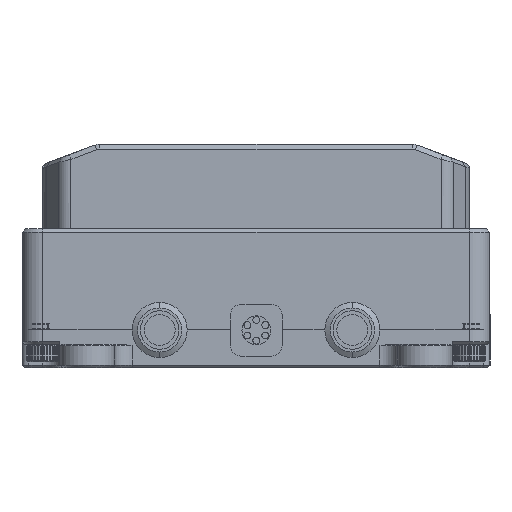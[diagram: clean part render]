
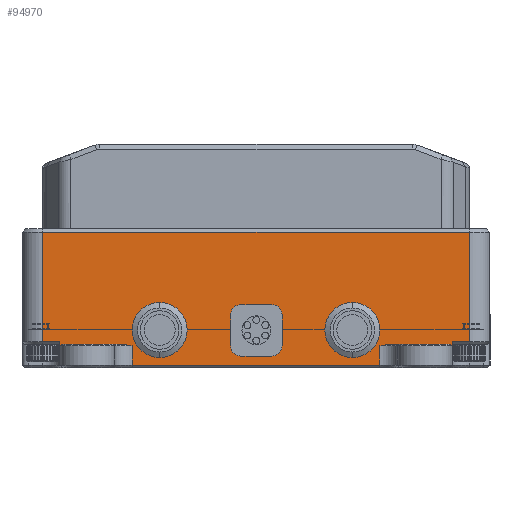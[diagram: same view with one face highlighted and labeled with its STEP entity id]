
A CAD part, left-side view. The second image highlights one B-rep face of the part: STEP entity #94970.
In plain terms, the highlighted planar face has unit normal (-1, 0, 0).
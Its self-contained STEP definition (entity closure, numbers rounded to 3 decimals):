
#753=DIRECTION('',(0.,0.,-1.));
#754=VECTOR('',#753,15.9);
#755=CARTESIAN_POINT('',(-66.5,31.,4.7));
#756=LINE('',#755,#754);
#783=DIRECTION('',(0.,-1.,0.));
#784=VECTOR('',#783,2.5);
#785=CARTESIAN_POINT('',(-66.5,-28.5,-11.2));
#786=LINE('',#785,#784);
#790=DIRECTION('',(0.,0.,-1.));
#791=VECTOR('',#790,0.6);
#792=CARTESIAN_POINT('',(-66.5,-28.5,-11.2));
#793=LINE('',#792,#791);
#797=DIRECTION('',(0.,0.,-1.));
#798=VECTOR('',#797,2.8);
#799=CARTESIAN_POINT('',(-66.5,-18.,-11.8));
#800=LINE('',#799,#798);
#804=DIRECTION('',(0.,1.,0.));
#805=VECTOR('',#804,36.);
#806=CARTESIAN_POINT('',(-66.5,-18.,
-14.6));
#807=LINE('',#806,#805);
#811=DIRECTION('',(0.,0.,1.));
#812=VECTOR('',#811,2.8);
#813=CARTESIAN_POINT('',(-66.5,18.,-14.6));
#814=LINE('',#813,#812);
#818=DIRECTION('',(0.,0.,1.));
#819=VECTOR('',#818,0.6);
#820=CARTESIAN_POINT('',(-66.5,28.5,-11.8));
#821=LINE('',#820,#819);
#825=DIRECTION('',(0.,1.,0.));
#826=VECTOR('',#825,2.5);
#827=CARTESIAN_POINT('',(-66.5,28.5,-11.2));
#828=LINE('',#827,#826);
#832=DIRECTION('',(0.,-1.,0.));
#833=VECTOR('',#832,62.);
#834=CARTESIAN_POINT('',(-66.5,31.,4.7));
#835=LINE('',#834,#833);
#839=CARTESIAN_POINT('',(-66.5,-14.,-9.5));
#840=DIRECTION('',(-1.,0.,0.));
#841=DIRECTION('',(0.,0.,1.));
#842=AXIS2_PLACEMENT_3D('',#839,#840,#841);
#847=CARTESIAN_POINT('',(-66.5,-14.,-9.5));
#848=DIRECTION('',(-1.,0.,0.));
#849=DIRECTION('',(0.,0.,-1.));
#850=AXIS2_PLACEMENT_3D('',#847,#848,#849);
#855=DIRECTION('',(0.,0.,-1.));
#856=VECTOR('',#855,3.);
#857=CARTESIAN_POINT('',(-66.5,3.05,-9.5));
#858=LINE('',#857,#856);
#862=DIRECTION('',(0.,-1.,0.));
#863=VECTOR('',#862,0.05);
#864=CARTESIAN_POINT('',(-66.5,3.05,-12.5));
#865=LINE('',#864,#863);
#869=DIRECTION('',(0.,0.,1.));
#870=VECTOR('',#869,6.);
#871=CARTESIAN_POINT('',(-66.5,-3.1,-12.5));
#872=LINE('',#871,#870);
#876=DIRECTION('',(0.,1.,0.));
#877=VECTOR('',#876,6.1);
#878=CARTESIAN_POINT('',(-66.5,-3.1,-6.5));
#879=LINE('',#878,#877);
#883=DIRECTION('',(0.,0.,1.));
#884=VECTOR('',#883,3.);
#885=CARTESIAN_POINT('',(-66.5,3.,-9.5));
#886=LINE('',#885,#884);
#890=CARTESIAN_POINT('',(-66.5,14.,-9.5));
#891=DIRECTION('',(-1.,0.,0.));
#892=DIRECTION('',(0.,0.,1.));
#893=AXIS2_PLACEMENT_3D('',#890,#891,#892);
#898=CARTESIAN_POINT('',(-66.5,14.,-9.5));
#899=DIRECTION('',(-1.,0.,0.));
#900=DIRECTION('',(0.,0.,-1.));
#901=AXIS2_PLACEMENT_3D('',#898,#899,#900);
#921=DIRECTION('',(0.,0.,1.));
#922=VECTOR('',#921,15.9);
#923=CARTESIAN_POINT('',(-66.5,-31.,
-11.2));
#924=LINE('',#923,#922);
#1538=CARTESIAN_POINT('',(-66.5,-19.02,-11.6));
#1551=DIRECTION('',(0.,-1.,0.));
#1552=VECTOR('',#1551,9.28);
#1553=CARTESIAN_POINT('',(-66.5,-19.02,-11.6));
#1554=LINE('',#1553,#1552);
#1565=DIRECTION('',(0.,-1.,0.));
#1566=VECTOR('',#1565,9.28);
#1567=CARTESIAN_POINT('',(-66.5,28.3,-11.6));
#1568=LINE('',#1567,#1566);
#3639=DIRECTION('',(0.,-0.707,0.707));
#3640=VECTOR('',#3639,0.283);
#3641=CARTESIAN_POINT('',(-66.5,28.5,-11.8));
#3642=LINE('',#3641,#3640);
#3707=CARTESIAN_POINT('',(-66.5,19.02,-11.6));
#3708=CARTESIAN_POINT('',(-66.5,18.839,-11.668));
#3709=CARTESIAN_POINT('',(-66.5,18.489,-11.769));
#3710=CARTESIAN_POINT('',(-66.5,18.159,-11.8));
#3711=CARTESIAN_POINT('',(-66.5,18.,-11.8));
#3777=CARTESIAN_POINT('',(-66.5,-18.,-11.8));
#3778=CARTESIAN_POINT('',(-66.5,-18.16,-11.8));
#3779=CARTESIAN_POINT('',(-66.5,-18.489,-11.769));
#3780=CARTESIAN_POINT('',(-66.5,-18.84,-11.668));
#3781=CARTESIAN_POINT('',(-66.5,-19.02,-11.6));
#3807=DIRECTION('',(0.,-0.707,-0.707));
#3808=VECTOR('',#3807,0.283);
#3809=CARTESIAN_POINT('',(-66.5,-28.3,-11.6));
#3810=LINE('',#3809,#3808);
#54102=DIRECTION('',(0.,-1.,0.));
#54103=VECTOR('',#54102,0.05);
#54104=CARTESIAN_POINT('',(-66.5,3.05,-9.5));
#54105=LINE('',#54104,#54103);
#55024=DIRECTION('',(0.,1.,0.));
#55025=VECTOR('',#55024,6.1);
#55026=CARTESIAN_POINT('',(-66.5,-3.1,-12.5));
#55027=LINE('',#55026,#55025);
#82808=CARTESIAN_POINT('',(-66.5,31.,4.7));
#82810=VERTEX_POINT('',#82808);
#82813=CARTESIAN_POINT('',(-66.5,-31.,
4.7));
#82814=VERTEX_POINT('',#82813);
#84983=CARTESIAN_POINT('',(-66.5,-14.,-6.));
#84984=VERTEX_POINT('',#84983);
#85037=CARTESIAN_POINT('',(-66.5,3.,-9.5));
#85039=VERTEX_POINT('',#85037);
#85041=CARTESIAN_POINT('',(-66.5,-3.1,-6.5));
#85042=CARTESIAN_POINT('',(-66.5,3.,-6.5));
#85043=VERTEX_POINT('',#85041);
#85044=VERTEX_POINT('',#85042);
#85091=CARTESIAN_POINT('',(-66.5,14.,-6.));
#85092=VERTEX_POINT('',#85091);
#87426=CARTESIAN_POINT('',(-66.5,-18.,
-14.6));
#87427=CARTESIAN_POINT('',(-66.5,18.,
-14.6));
#87428=VERTEX_POINT('',#87426);
#87429=VERTEX_POINT('',#87427);
#87696=CARTESIAN_POINT('',(-66.5,31.,-11.2));
#87697=VERTEX_POINT('',#87696);
#87698=CARTESIAN_POINT('',(-66.5,28.5,-11.2));
#87699=VERTEX_POINT('',#87698);
#87794=CARTESIAN_POINT('',(-66.5,-31.,-11.2));
#87795=VERTEX_POINT('',#87794);
#87798=CARTESIAN_POINT('',(-66.5,-28.5,-11.2));
#87799=VERTEX_POINT('',#87798);
#88323=CARTESIAN_POINT('',(-66.5,-28.5,-11.8));
#88325=VERTEX_POINT('',#88323);
#88327=CARTESIAN_POINT('',(-66.5,-28.3,-11.6));
#88329=VERTEX_POINT('',#88327);
#88338=VERTEX_POINT('',#1538);
#88339=CARTESIAN_POINT('',(-66.5,-18.,-11.8));
#88340=VERTEX_POINT('',#88339);
#88342=CARTESIAN_POINT('',(-66.5,28.3,-11.6));
#88344=VERTEX_POINT('',#88342);
#88346=CARTESIAN_POINT('',(-66.5,28.5,-11.8));
#88348=VERTEX_POINT('',#88346);
#88357=CARTESIAN_POINT('',(-66.5,18.,-11.8));
#88358=VERTEX_POINT('',#88357);
#88359=CARTESIAN_POINT('',(-66.5,19.02,-11.6));
#88360=VERTEX_POINT('',#88359);
#88400=CARTESIAN_POINT('',(-66.5,3.05,-9.5));
#88402=VERTEX_POINT('',#88400);
#88498=CARTESIAN_POINT('',(-66.5,-3.1,-12.5));
#88499=CARTESIAN_POINT('',(-66.5,3.,-12.5));
#88500=VERTEX_POINT('',#88498);
#88501=VERTEX_POINT('',#88499);
#88560=CARTESIAN_POINT('',(-66.5,-14.,-13.));
#88561=VERTEX_POINT('',#88560);
#88562=CARTESIAN_POINT('',(-66.5,14.,-13.));
#88563=VERTEX_POINT('',#88562);
#88570=CARTESIAN_POINT('',(-66.5,3.05,-12.5));
#88571=VERTEX_POINT('',#88570);
#94905=CARTESIAN_POINT('',(-66.5,34.,-9.5));
#94906=DIRECTION('',(-1.,0.,0.));
#94907=DIRECTION('',(0.,-1.,0.));
#94908=AXIS2_PLACEMENT_3D('',#94905,#94906,#94907);
#94909=PLANE('',#94908);
#94911=ORIENTED_EDGE('',*,*,#94910,.F.);
#94913=ORIENTED_EDGE('',*,*,#94912,.F.);
#94915=ORIENTED_EDGE('',*,*,#94914,.T.);
#94917=ORIENTED_EDGE('',*,*,#94916,.F.);
#94919=ORIENTED_EDGE('',*,*,#94918,.F.);
#94921=ORIENTED_EDGE('',*,*,#94920,.F.);
#94923=ORIENTED_EDGE('',*,*,#94922,.T.);
#94925=ORIENTED_EDGE('',*,*,#94924,.T.);
#94927=ORIENTED_EDGE('',*,*,#94926,.T.);
#94929=ORIENTED_EDGE('',*,*,#94928,.F.);
#94931=ORIENTED_EDGE('',*,*,#94930,.F.);
#94933=ORIENTED_EDGE('',*,*,#94932,.F.);
#94935=ORIENTED_EDGE('',*,*,#94934,.T.);
#94937=ORIENTED_EDGE('',*,*,#94936,.T.);
#94938=ORIENTED_EDGE('',*,*,#94896,.F.);
#94939=ORIENTED_EDGE('',*,*,#94779,.T.);
#94940=EDGE_LOOP('',(#94911,#94913,#94915,#94917,#94919,#94921,#94923,#94925,
#94927,#94929,#94931,#94933,#94935,#94937,#94938,#94939));
#94941=FACE_OUTER_BOUND('',#94940,.F.);
#94943=ORIENTED_EDGE('',*,*,#94942,.T.);
#94945=ORIENTED_EDGE('',*,*,#94944,.T.);
#94946=EDGE_LOOP('',(#94943,#94945));
#94947=FACE_BOUND('',#94946,.F.);
#94949=ORIENTED_EDGE('',*,*,#94948,.F.);
#94951=ORIENTED_EDGE('',*,*,#94950,.T.);
#94953=ORIENTED_EDGE('',*,*,#94952,.T.);
#94955=ORIENTED_EDGE('',*,*,#94954,.F.);
#94957=ORIENTED_EDGE('',*,*,#94956,.T.);
#94959=ORIENTED_EDGE('',*,*,#94958,.T.);
#94961=ORIENTED_EDGE('',*,*,#94960,.F.);
#94962=EDGE_LOOP('',(#94949,#94951,#94953,#94955,#94957,#94959,#94961));
#94963=FACE_BOUND('',#94962,.F.);
#94965=ORIENTED_EDGE('',*,*,#94964,.T.);
#94967=ORIENTED_EDGE('',*,*,#94966,.T.);
#94968=EDGE_LOOP('',(#94965,#94967));
#94969=FACE_BOUND('',#94968,.F.);
#843=CIRCLE('',#842,3.5);
#851=CIRCLE('',#850,3.5);
#894=CIRCLE('',#893,3.5);
#902=CIRCLE('',#901,3.5);
#3712=B_SPLINE_CURVE_WITH_KNOTS('',3,(#3707,#3708,#3709,#3710,#3711),
.UNSPECIFIED.,.F.,.F.,(4,1,4),(0.,0.5,1.),.UNSPECIFIED.);
#3782=B_SPLINE_CURVE_WITH_KNOTS('',3,(#3777,#3778,#3779,#3780,#3781),
.UNSPECIFIED.,.F.,.F.,(4,1,4),(0.,0.5,1.),.UNSPECIFIED.);
#94779=EDGE_CURVE('',#82810,#82814,#835,.T.);
#94896=EDGE_CURVE('',#82810,#87697,#756,.T.);
#94910=EDGE_CURVE('',#87795,#82814,#924,.T.);
#94912=EDGE_CURVE('',#87799,#87795,#786,.T.);
#94914=EDGE_CURVE('',#87799,#88325,#793,.T.);
#94916=EDGE_CURVE('',#88329,#88325,#3810,.T.);
#94918=EDGE_CURVE('',#88338,#88329,#1554,.T.);
#94920=EDGE_CURVE('',#88340,#88338,#3782,.T.);
#94922=EDGE_CURVE('',#88340,#87428,#800,.T.);
#94924=EDGE_CURVE('',#87428,#87429,#807,.T.);
#94926=EDGE_CURVE('',#87429,#88358,#814,.T.);
#94928=EDGE_CURVE('',#88360,#88358,#3712,.T.);
#94930=EDGE_CURVE('',#88344,#88360,#1568,.T.);
#94932=EDGE_CURVE('',#88348,#88344,#3642,.T.);
#94934=EDGE_CURVE('',#88348,#87699,#821,.T.);
#94936=EDGE_CURVE('',#87699,#87697,#828,.T.);
#94942=EDGE_CURVE('',#84984,#88561,#843,.T.);
#94944=EDGE_CURVE('',#88561,#84984,#851,.T.);
#94948=EDGE_CURVE('',#88402,#85039,#54105,.T.);
#94950=EDGE_CURVE('',#88402,#88571,#858,.T.);
#94952=EDGE_CURVE('',#88571,#88501,#865,.T.);
#94954=EDGE_CURVE('',#88500,#88501,#55027,.T.);
#94956=EDGE_CURVE('',#88500,#85043,#872,.T.);
#94958=EDGE_CURVE('',#85043,#85044,#879,.T.);
#94960=EDGE_CURVE('',#85039,#85044,#886,.T.);
#94964=EDGE_CURVE('',#85092,#88563,#894,.T.);
#94966=EDGE_CURVE('',#88563,#85092,#902,.T.);
#94970=ADVANCED_FACE('',(#94941,#94947,#94963,#94969),#94909,.T.);
